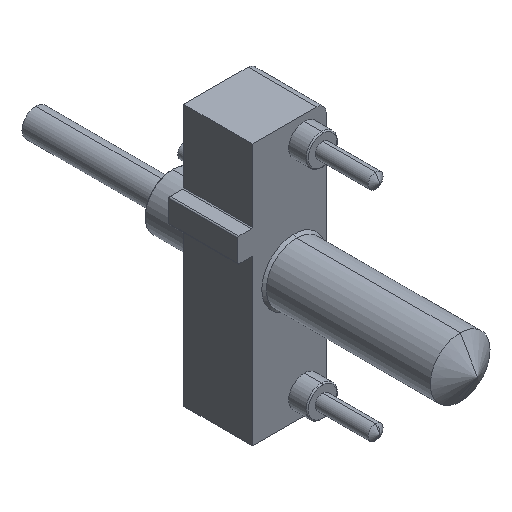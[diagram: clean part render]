
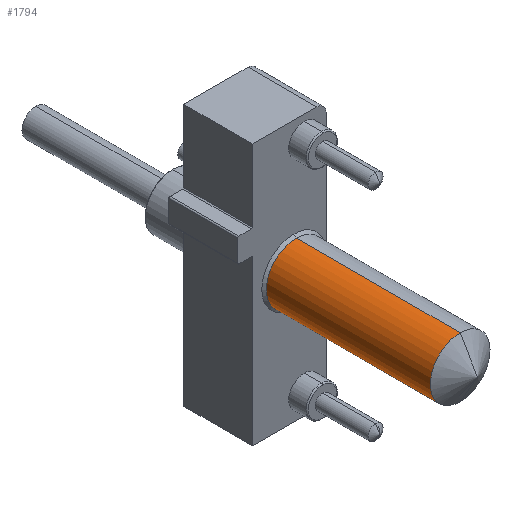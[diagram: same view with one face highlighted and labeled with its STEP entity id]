
A CAD part, isometric view. The second image highlights one B-rep face of the part: STEP entity #1794.
In plain terms, the highlighted cylindrical face has radius 13 mm (diameter 26 mm), a partial arc.
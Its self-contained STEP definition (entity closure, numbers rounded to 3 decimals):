
#53 = AXIS2_PLACEMENT_3D ( 'NONE', #1071, #1674, #324 ) ;
#102 = LINE ( 'NONE', #113, #528 ) ;
#108 = VERTEX_POINT ( 'NONE', #1694 ) ;
#113 = CARTESIAN_POINT ( 'NONE',  ( 0., -110., -13. ) ) ;
#116 = CARTESIAN_POINT ( 'NONE',  ( 0., -110., 13. ) ) ;
#171 = CARTESIAN_POINT ( 'NONE',  ( 0., -31., 13. ) ) ;
#276 = DIRECTION ( 'NONE',  ( 0., 1., 0. ) ) ;
#280 = DIRECTION ( 'NONE',  ( 0., 1., 0. ) ) ;
#324 = DIRECTION ( 'NONE',  ( 0., 0., -1. ) ) ;
#447 = FACE_OUTER_BOUND ( 'NONE', #507, .T. ) ;
#450 = VECTOR ( 'NONE', #280, 1000. ) ;
#471 = ORIENTED_EDGE ( 'NONE', *, *, #705, .T. ) ;
#507 = EDGE_LOOP ( 'NONE', ( #1039, #471, #1847, #984 ) ) ;
#528 = VECTOR ( 'NONE', #276, 1000. ) ;
#592 = CARTESIAN_POINT ( 'NONE',  ( 0., -31., -13. ) ) ;
#647 = VERTEX_POINT ( 'NONE', #171 ) ;
#705 = EDGE_CURVE ( 'NONE', #108, #1678, #1060, .T. ) ;
#843 = EDGE_CURVE ( 'NONE', #647, #1621, #1640, .T. ) ;
#886 = AXIS2_PLACEMENT_3D ( 'NONE', #1872, #1421, #1720 ) ;
#952 = AXIS2_PLACEMENT_3D ( 'NONE', #1175, #1456, #1352 ) ;
#984 = ORIENTED_EDGE ( 'NONE', *, *, #843, .T. ) ;
#1039 = ORIENTED_EDGE ( 'NONE', *, *, #1267, .F. ) ;
#1060 = CIRCLE ( 'NONE', #53, 13. ) ;
#1071 = CARTESIAN_POINT ( 'NONE',  ( 0., -102.494, 0. ) ) ;
#1175 = CARTESIAN_POINT ( 'NONE',  ( 0., -110., 0. ) ) ;
#1267 = EDGE_CURVE ( 'NONE', #108, #1621, #102, .T. ) ;
#1352 = DIRECTION ( 'NONE',  ( 0., 0., 1. ) ) ;
#1421 = DIRECTION ( 'NONE',  ( 0., -1., 0. ) ) ;
#1456 = DIRECTION ( 'NONE',  ( 0., 1., 0. ) ) ;
#1610 = CARTESIAN_POINT ( 'NONE',  ( 0., -102.494, 13. ) ) ;
#1618 = CYLINDRICAL_SURFACE ( 'NONE', #952, 13. ) ;
#1621 = VERTEX_POINT ( 'NONE', #592 ) ;
#1640 = CIRCLE ( 'NONE', #886, 13. ) ;
#1674 = DIRECTION ( 'NONE',  ( 0., 1., 0. ) ) ;
#1678 = VERTEX_POINT ( 'NONE', #1610 ) ;
#1694 = CARTESIAN_POINT ( 'NONE',  ( 0., -102.494, -13. ) ) ;
#1720 = DIRECTION ( 'NONE',  ( 0., 0., 1. ) ) ;
#1764 = LINE ( 'NONE', #116, #450 ) ;
#1794 = ADVANCED_FACE ( 'NONE', ( #447 ), #1618, .T. ) ;
#1847 = ORIENTED_EDGE ( 'NONE', *, *, #1876, .T. ) ;
#1872 = CARTESIAN_POINT ( 'NONE',  ( 0., -31., 0. ) ) ;
#1876 = EDGE_CURVE ( 'NONE', #1678, #647, #1764, .T. ) ;
